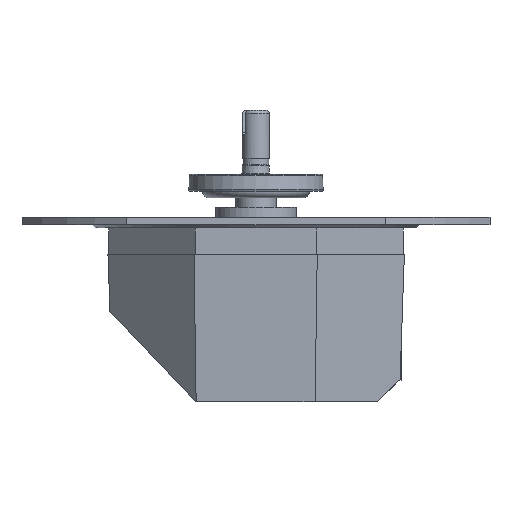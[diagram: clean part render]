
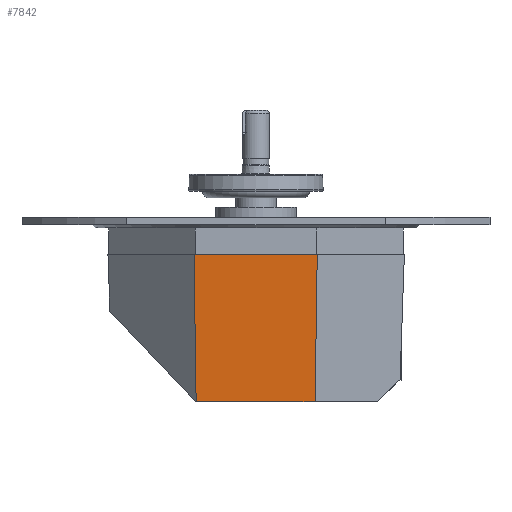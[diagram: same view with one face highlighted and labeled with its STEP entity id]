
A CAD part, left-side view. The second image highlights one B-rep face of the part: STEP entity #7842.
In plain terms, the highlighted planar face has unit normal (-0.999, 0, -0.035).
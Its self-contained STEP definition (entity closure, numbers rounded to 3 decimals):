
#401=LINE('',#10969,#997);
#481=LINE('',#11199,#1077);
#483=LINE('',#11202,#1079);
#484=LINE('',#11204,#1080);
#997=VECTOR('',#9313,1000.);
#1077=VECTOR('',#9509,1000.);
#1079=VECTOR('',#9513,1000.);
#1080=VECTOR('',#9514,1000.);
#1414=PLANE('',#8298);
#2507=ORIENTED_EDGE('',*,*,#3658,.F.);
#2508=ORIENTED_EDGE('',*,*,#3660,.T.);
#2509=ORIENTED_EDGE('',*,*,#3661,.T.);
#2510=ORIENTED_EDGE('',*,*,#3554,.F.);
#3554=EDGE_CURVE('',#4232,#4233,#401,.T.);
#3658=EDGE_CURVE('',#4292,#4232,#481,.T.);
#3660=EDGE_CURVE('',#4292,#4293,#483,.T.);
#3661=EDGE_CURVE('',#4293,#4233,#484,.T.);
#4232=VERTEX_POINT('',#10968);
#4233=VERTEX_POINT('',#10970);
#4292=VERTEX_POINT('',#11198);
#4293=VERTEX_POINT('',#11203);
#4853=EDGE_LOOP('',(#2507,#2508,#2509,#2510));
#5221=FACE_BOUND('',#4853,.T.);
#7842=ADVANCED_FACE('',(#5221),#1414,.T.);
#8298=AXIS2_PLACEMENT_3D('',#11201,#9511,#9512);
#9313=DIRECTION('',(0.,-1.,0.));
#9509=DIRECTION('',(-0.035,0.014,0.999));
#9511=DIRECTION('',(-0.999,0.,-0.035));
#9512=DIRECTION('',(0.035,0.,-0.999));
#9513=DIRECTION('',(0.,-1.,0.));
#9514=DIRECTION('',(-0.035,-0.014,0.999));
#10968=CARTESIAN_POINT('',(-22.384,9.275,-11.187));
#10969=CARTESIAN_POINT('',(-22.384,0.,-11.187));
#10970=CARTESIAN_POINT('',(-22.384,-9.158,-11.187));
#11198=CARTESIAN_POINT('',(-21.616,8.957,-33.187));
#11199=CARTESIAN_POINT('',(-22.384,9.275,-11.188));
#11201=CARTESIAN_POINT('',(-22.384,-0.025,-11.187));
#11202=CARTESIAN_POINT('',(-21.616,-0.025,-33.187));
#11203=CARTESIAN_POINT('',(-21.616,-8.839,-33.187));
#11204=CARTESIAN_POINT('',(-22.38,-9.156,-11.319));
